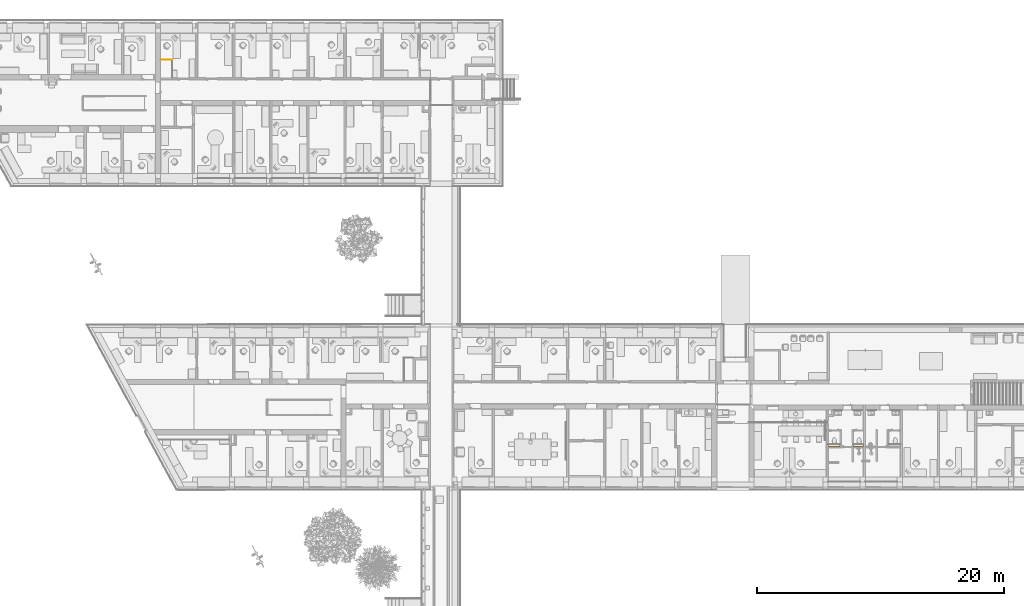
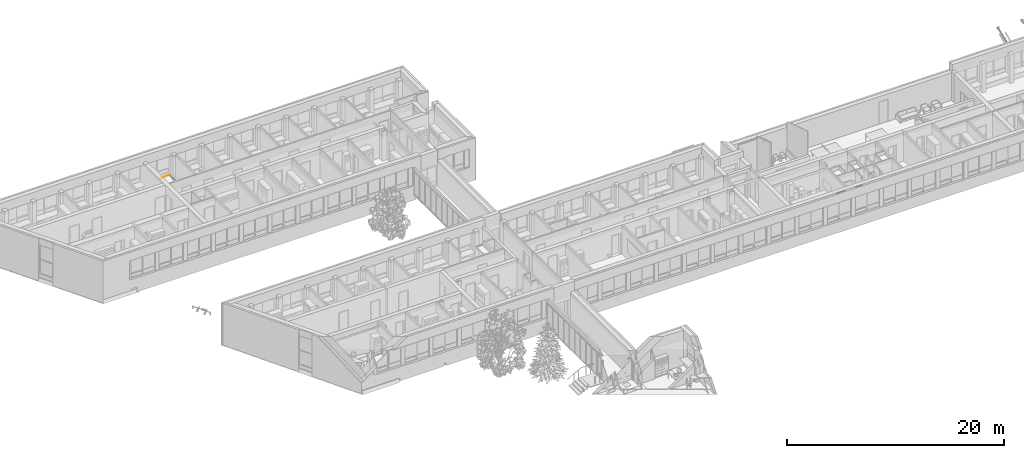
# One storey, part 111 of 194: 3 coverings.
"""IFC2X3 building model written with IfcOpenShell, lengths in millimetres."""

from ifc_helpers import new_model, entity, si_unit, converted_unit, derived_unit, money_unit, direction, frame, origin_with_axes, place, context, subcontext, project, spatial, polyline, outline, extrude, material, type_object, element, save


model = new_model("IFC2X3")

# Units and contexts
model_context = context("Model", 3, precision=1e-05, world=origin_with_axes(), true_north=direction((0.0, 1.0)))
body_context = subcontext(model_context, "Body", "Model", "MODEL_VIEW")
ifc_project = project(units=[si_unit("LENGTHUNIT", "METRE", prefix="MILLI"), si_unit("AREAUNIT", "SQUARE_METRE"), si_unit("VOLUMEUNIT", "CUBIC_METRE"), converted_unit("PLANEANGLEUNIT", "DEGREE", entity("IfcPlaneAngleMeasure", 0.0174532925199), si_unit("PLANEANGLEUNIT", "RADIAN"), dimensions=[0, 0, 0, 0, 0, 0, 0]), si_unit("SOLIDANGLEUNIT", "STERADIAN"), money_unit("EUR"), converted_unit("TIMEUNIT", "Year", entity("IfcTimeMeasure", 31556926.0), si_unit("TIMEUNIT", "SECOND"), dimensions=[0, 0, 1, 0, 0, 0, 0]), si_unit("MASSUNIT", "GRAM", prefix="KILO"), si_unit("THERMODYNAMICTEMPERATUREUNIT", "DEGREE_CELSIUS"), si_unit("LUMINOUSINTENSITYUNIT", "LUMEN"), si_unit("ENERGYUNIT", "JOULE", prefix="MEGA"), derived_unit("THERMALCONDUCTANCEUNIT", [(si_unit("POWERUNIT", "WATT"), 1), (si_unit("LENGTHUNIT", "METRE"), -1), (si_unit("THERMODYNAMICTEMPERATUREUNIT", "KELVIN"), -1)]), derived_unit("SPECIFICHEATCAPACITYUNIT", [(si_unit("ENERGYUNIT", "JOULE"), 1), (si_unit("MASSUNIT", "GRAM", prefix="KILO"), -1), (si_unit("THERMODYNAMICTEMPERATUREUNIT", "KELVIN"), -1)]), derived_unit("MASSDENSITYUNIT", [(si_unit("MASSUNIT", "GRAM", prefix="KILO"), 1), (si_unit("VOLUMEUNIT", "CUBIC_METRE"), -1)])], contexts=[model_context])

# Site, building, storey
site_placement = place(None, origin_with_axes())
site = spatial("IfcSite", under=ifc_project, at=site_placement, Name="Site", CompositionType="ELEMENT")
building_placement = place(site_placement, origin_with_axes())
building = spatial("IfcBuilding", under=site, at=building_placement, Name="Building", CompositionType="ELEMENT")
storey_placement = place(building_placement, frame((0.0, 0.0, 3000.0), z_axis=(0.0, 0.0, 1.0), x_axis=(1.0, 0.0, 0.0)))
storey = spatial("IfcBuildingStorey", under=building, at=storey_placement, Name="2 KORRUS", CompositionType="ELEMENT", Elevation=3000.0)

# Coverings
ifc_material_1 = material(Name="Kipsplaat")
covering_type_1 = type_object("IfcCoveringType", Name="Kips", PredefinedType="CEILING")
covering_1_placement = place(storey_placement, frame((16157.2275607, 68934.0009243, 2859.72980294), z_axis=(0.0, 0.0, 1.0), x_axis=(1.0, -2.0338233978e-07, 0.0)))
element("IfcCovering", 1, at=covering_1_placement, inside=storey, type_object=covering_type_1, material=ifc_material_1, Name="Kipsplaat", PredefinedType="CEILING", context=body_context, shape_type="SweptSolid", body=[
    extrude(outline(polyline([(-2.27373675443e-10, 0.0), (935.65348716, 0.0), (948.654881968, 13.0000000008), (-2.27373675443e-10, 12.9999999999), (-2.27373675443e-10, 0.0)])), origin_with_axes(), (0.0, 0.0, 1.0), 90.2701970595),
])
ifc_material_2 = material(Name="Betoon - Ol.Olev konstruktsioon")
covering_type_2 = type_object("IfcCoveringType", Name="loputuskasti raam", PredefinedType="NOTDEFINED")
covering_2_placement = place(storey_placement, frame((73009.5576121, 37807.6064086, 1200.0), z_axis=(0.0, 0.0, 1.0), x_axis=(1.0, 0.0, 0.0)))
element("IfcCovering", 2, at=covering_2_placement, inside=storey, type_object=covering_type_2, material=ifc_material_2, Name="Betoon - Ol.Olev konstruktsioon", PredefinedType="NOTDEFINED", context=body_context, shape_type="SweptSolid", body=[
    extrude(outline(polyline([(0.0, 0.0), (-819.006038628, 0.0), (-819.006038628, -163.0), (0.0, -163.0), (0.0, 0.0)])), frame((0.0, 0.0, -2.0), z_axis=(0.0, 0.0, 1.0), x_axis=(1.0, 0.0, 0.0)), (0.0, 0.0, 1.0), 2.0),
])
covering_3_placement = place(storey_placement, frame((71126.0211594, 37807.6064086, 1200.0), z_axis=(0.0, 0.0, 1.0), x_axis=(1.0, 0.0, 0.0)))
element("IfcCovering", 3, at=covering_3_placement, inside=storey, type_object=covering_type_2, material=ifc_material_2, Name="Betoon - Ol.Olev konstruktsioon", PredefinedType="NOTDEFINED", context=body_context, shape_type="SweptSolid", body=[
    extrude(outline(polyline([(0.0, 0.0), (-970.88448417, 0.0), (-970.88448417, -163.0), (0.0, -163.0), (0.0, 0.0)])), frame((0.0, 0.0, -2.0), z_axis=(0.0, 0.0, 1.0), x_axis=(1.0, 0.0, 0.0)), (0.0, 0.0, 1.0), 2.0),
])

save(model, "model.ifc")
